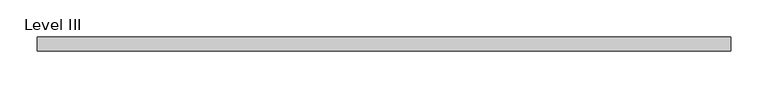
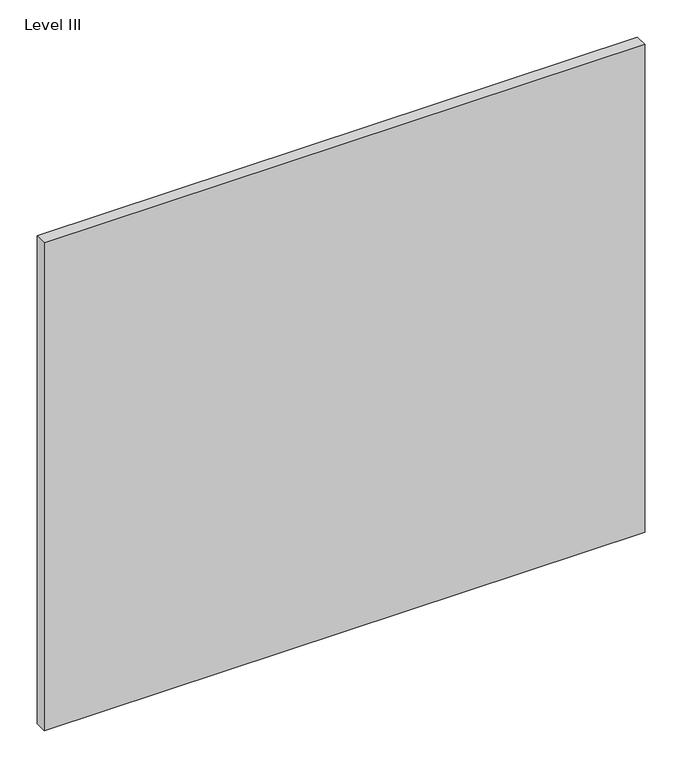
"""IFC4 building model written with IfcOpenShell, lengths in millimetres: proxy geometry, Panel-Fascia-Teknion-Altos-Standard : Level III."""

from ifc_helpers import new_model, si_unit, frame, origin, place, context, project, spatial, polyline, outline, extrude, source, transform, mapped, element, save


def level_iii_61c4658a(model_context):
    return source(origin(), model_context, "Body", "SweptSolid", [
        extrude(outline(polyline([(467.9900391, 9.525), (467.9900391, -9.525), (-467.9900391, -9.525), (-467.9900391, 9.525), (467.9900391, 9.525)])), frame((0.0, 0.0, 3.175), z_axis=(0.0, 0.0, 1.0), x_axis=(1.0, 0.0, 0.0)), (0.0, 0.0, 1.0), 804.418),
    ])


if __name__ == "__main__":
    model = new_model("IFC4")
    model_context = context("Model", 3, world=origin())
    ifc_project = project(units=[si_unit("LENGTHUNIT", "METRE", prefix="MILLI")], contexts=[model_context])
    site = spatial("IfcSite", under=ifc_project)
    building = spatial("IfcBuilding", under=site)
    placement = place(None, origin())
    level_iii_shape = level_iii_61c4658a(model_context)
    element("IfcBuildingElementProxy", 1, Name="Panel-Fascia-Teknion-Altos-Standard : Level III", ObjectType="Panel-Fascia-Teknion-Altos-Standard : Level III", at=placement, inside=building, context=model_context, shape_type="MappedRepresentation", body=[
        mapped(level_iii_shape, transform((0.0, 0.0, 0.0), x_axis=(1.0, 0.0, 0.0), y_axis=(0.0, 1.0, 0.0), z_axis=(0.0, 0.0, 1.0))),
    ])
    save(model, "model.ifc")
